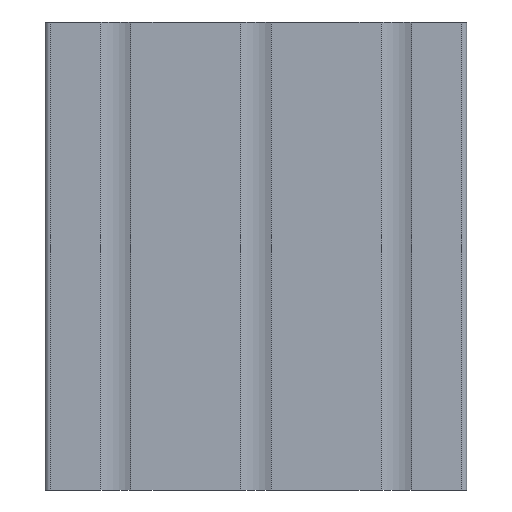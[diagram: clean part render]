
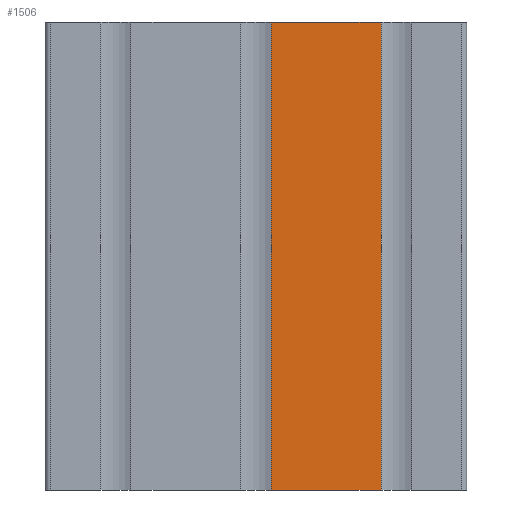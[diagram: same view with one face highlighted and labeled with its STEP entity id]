
A CAD part, front view. The second image highlights one B-rep face of the part: STEP entity #1506.
In plain terms, the highlighted planar face has unit normal (0, -1, 0).
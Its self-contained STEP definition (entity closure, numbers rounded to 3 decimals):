
#175 = ORIENTED_EDGE ( 'NONE', *, *, #1429, .T. ) ;
#216 = ORIENTED_EDGE ( 'NONE', *, *, #4122, .F. ) ;
#248 = EDGE_CURVE ( 'NONE', #666, #1302, #3677, .T. ) ;
#370 = LINE ( 'NONE', #3872, #3481 ) ;
#666 = VERTEX_POINT ( 'NONE', #2033 ) ;
#738 = CARTESIAN_POINT ( 'NONE',  ( 3.25, -15., 0. ) ) ;
#1002 = DIRECTION ( 'NONE',  ( 0., 0., 1. ) ) ;
#1144 = CARTESIAN_POINT ( 'NONE',  ( 26.75, -15., 0. ) ) ;
#1167 = DIRECTION ( 'NONE',  ( 1., 0., 0. ) ) ;
#1302 = VERTEX_POINT ( 'NONE', #3566 ) ;
#1395 = PLANE ( 'NONE',  #3213 ) ;
#1429 = EDGE_CURVE ( 'NONE', #1302, #1482, #370, .T. ) ;
#1482 = VERTEX_POINT ( 'NONE', #1144 ) ;
#1506 = ADVANCED_FACE ( 'NONE', ( #3697 ), #1395, .T. ) ;
#1647 = DIRECTION ( 'NONE',  ( 1., 0., 0. ) ) ;
#1670 = ORIENTED_EDGE ( 'NONE', *, *, #248, .T. ) ;
#1705 = LINE ( 'NONE', #3003, #3393 ) ;
#2033 = CARTESIAN_POINT ( 'NONE',  ( 3.25, -15., -100. ) ) ;
#2080 = CARTESIAN_POINT ( 'NONE',  ( 3.25, -15., -100. ) ) ;
#2253 = VERTEX_POINT ( 'NONE', #2283 ) ;
#2283 = CARTESIAN_POINT ( 'NONE',  ( 3.25, -15., 0. ) ) ;
#2392 = CARTESIAN_POINT ( 'NONE',  ( 3.25, -15., -100. ) ) ;
#2644 = VECTOR ( 'NONE', #1167, 1000. ) ;
#2724 = ORIENTED_EDGE ( 'NONE', *, *, #4082, .F. ) ;
#2760 = DIRECTION ( 'NONE',  ( 0., -1., 0. ) ) ;
#3003 = CARTESIAN_POINT ( 'NONE',  ( 3.25, -15., -100. ) ) ;
#3053 = DIRECTION ( 'NONE',  ( 0., 0., -1. ) ) ;
#3070 = EDGE_LOOP ( 'NONE', ( #216, #2724, #1670, #175 ) ) ;
#3213 = AXIS2_PLACEMENT_3D ( 'NONE', #2080, #2760, #3053 ) ;
#3393 = VECTOR ( 'NONE', #3919, 1000. ) ;
#3481 = VECTOR ( 'NONE', #1002, 1000. ) ;
#3566 = CARTESIAN_POINT ( 'NONE',  ( 26.75, -15., -100. ) ) ;
#3605 = LINE ( 'NONE', #738, #3797 ) ;
#3677 = LINE ( 'NONE', #2392, #2644 ) ;
#3697 = FACE_OUTER_BOUND ( 'NONE', #3070, .T. ) ;
#3797 = VECTOR ( 'NONE', #1647, 1000. ) ;
#3872 = CARTESIAN_POINT ( 'NONE',  ( 26.75, -15., -100. ) ) ;
#3919 = DIRECTION ( 'NONE',  ( 0., 0., 1. ) ) ;
#4082 = EDGE_CURVE ( 'NONE', #666, #2253, #1705, .T. ) ;
#4122 = EDGE_CURVE ( 'NONE', #2253, #1482, #3605, .T. ) ;
